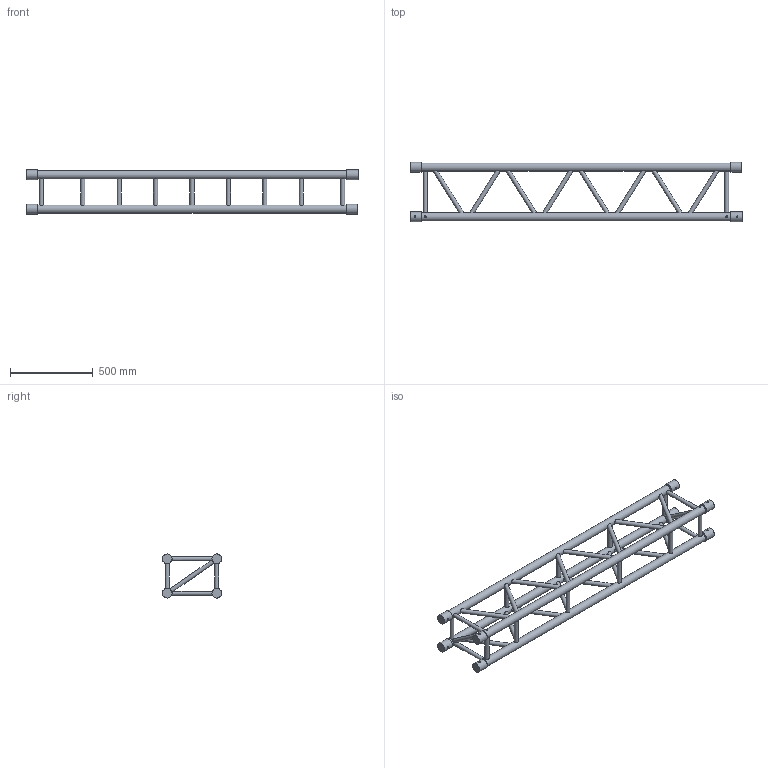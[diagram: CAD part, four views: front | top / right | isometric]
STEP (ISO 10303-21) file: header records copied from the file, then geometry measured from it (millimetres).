
FILE_DESCRIPTION(/* description */ (''),/* implementation_level */ '2;1');
FILE_NAME(/* name */ 'C:\Users\adrian.toca\Desktop\111110049.stp',/* time_stamp */ '2016-09-14T10:07:11+03:00',/* author */ ('adrian.toca'),/* organization */ (''),/* preprocessor_version */ 'ST-DEVELOPER v15.6',/* originating_system */ 'Autodesk Inventor 2015',/* authorisation */ '');
FILE_SCHEMA (('AUTOMOTIVE_DESIGN { 1 0 10303 214 3 1 1 }'));
Length unit declared in the file: millimetre
Products named in the file (1): 260030901
Bounding box: 2000 x 357.8 x 265.8 mm (x, y, z)
Volume: 3961966.6 mm3; surface area: 1969309.1 mm2
Topology: 14 solids, 21 shells, 217 faces, 425 edges, 262 vertices
Faces by surface type: cylinder 113, plane 96, cone 8
Full cylindrical faces by diameter (mm): 10 x8, 25 x33, 50 x4, 58.8 x8
Entity records: 7179 total; most frequent: CARTESIAN_POINT 3252, DIRECTION 726, ORIENTED_EDGE 656, EDGE_LOOP 352, AXIS2_PLACEMENT_3D 342, EDGE_CURVE 290, VERTEX_POINT 212, STYLED_ITEM 190
